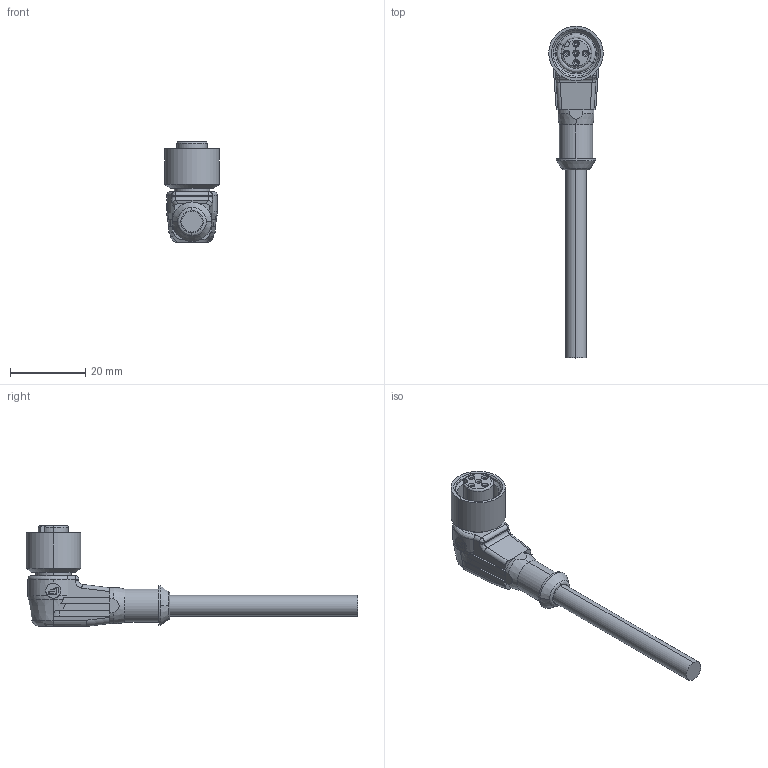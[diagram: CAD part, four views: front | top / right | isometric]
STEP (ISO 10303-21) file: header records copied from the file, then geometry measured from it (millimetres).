
FILE_DESCRIPTION (( 'STEP AP203' ), '1' );
FILE_NAME ('15010003 RKWTH 5-298.STEP', '2019-02-15T14:40:40', ( '' ), ( '' ), 'SwSTEP 2.0', 'SolidWorks 2015', '' );
FILE_SCHEMA (( 'CONFIG_CONTROL_DESIGN' ));
Length unit declared in the file: millimetre
Products named in the file (1): 15010003 RKWTH 5-298
Bounding box: 14.5 x 88.25 x 26.8 mm (x, y, z)
Volume: 6480.4 mm3; surface area: 3798.3 mm2
Topology: 1 solids, 1 shells, 191 faces, 499 edges, 312 vertices
Faces by surface type: cylinder 72, plane 64, cone 35, bspline 18, torus 2
Entity records: 6784 total; most frequent: CARTESIAN_POINT 2236, ORIENTED_EDGE 972, DIRECTION 896, EDGE_CURVE 486, AXIS2_PLACEMENT_3D 341, VERTEX_POINT 312, LINE 214, VECTOR 214
